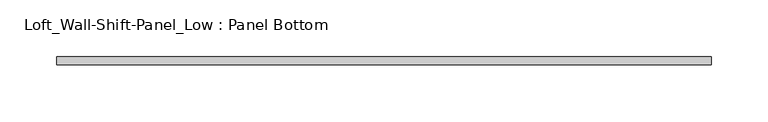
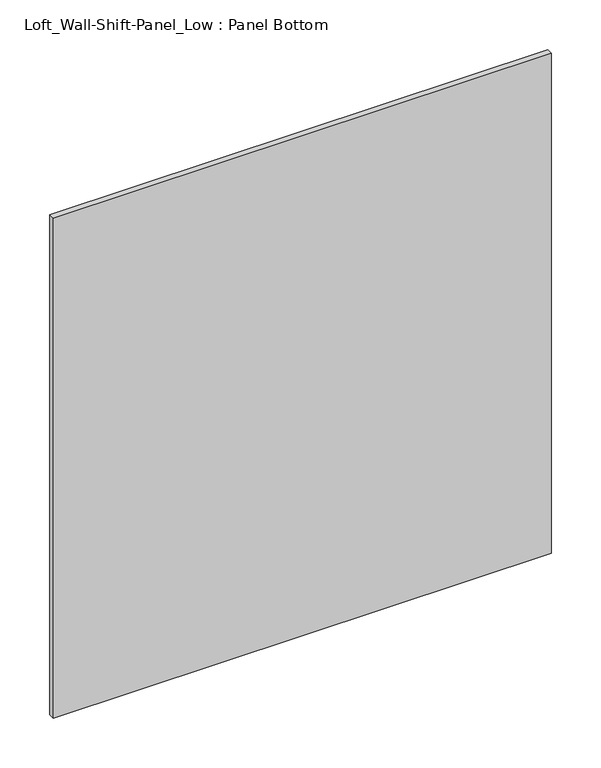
"""IFC4 building model written with IfcOpenShell, lengths in millimetres: furniture geometry, Loft_Wall-Shift-Panel_Low : Panel Bottom."""

from ifc_helpers import new_model, si_unit, frame, origin, place, context, project, spatial, polyline, outline, extrude, source, transform, mapped, element, save


def loft_wall_shift_panel_low_panel_bottom_8d38475a(model_context):
    return source(origin(), model_context, "Body", "SweptSolid", [
        extrude(outline(polyline([(288.925, -3.571875), (-288.925, -3.571875), (-288.925, 3.571875), (288.925, 3.571875), (288.925, -3.571875)])), frame((0.0, 0.0, 39.6875), z_axis=(0.0, 0.0, 1.0), x_axis=(1.0, 0.0, 0.0)), (0.0, 0.0, 1.0), 613.56875),
    ])


if __name__ == "__main__":
    model = new_model("IFC4")
    model_context = context("Model", 3, world=origin())
    ifc_project = project(units=[si_unit("LENGTHUNIT", "METRE", prefix="MILLI")], contexts=[model_context])
    site = spatial("IfcSite", under=ifc_project)
    building = spatial("IfcBuilding", under=site)
    placement = place(None, origin())
    loft_wall_shift_panel_low_panel_bottom_shape = loft_wall_shift_panel_low_panel_bottom_8d38475a(model_context)
    element("IfcFurniture", 1, ObjectType="Loft_Wall-Shift-Panel_Low : Panel Bottom", at=placement, inside=building, context=model_context, shape_type="MappedRepresentation", body=[
        mapped(loft_wall_shift_panel_low_panel_bottom_shape, transform((0.0, 0.0, 0.0), x_axis=(1.0, 0.0, 0.0), y_axis=(0.0, 1.0, 0.0), z_axis=(0.0, 0.0, 1.0))),
    ])
    save(model, "model.ifc")
